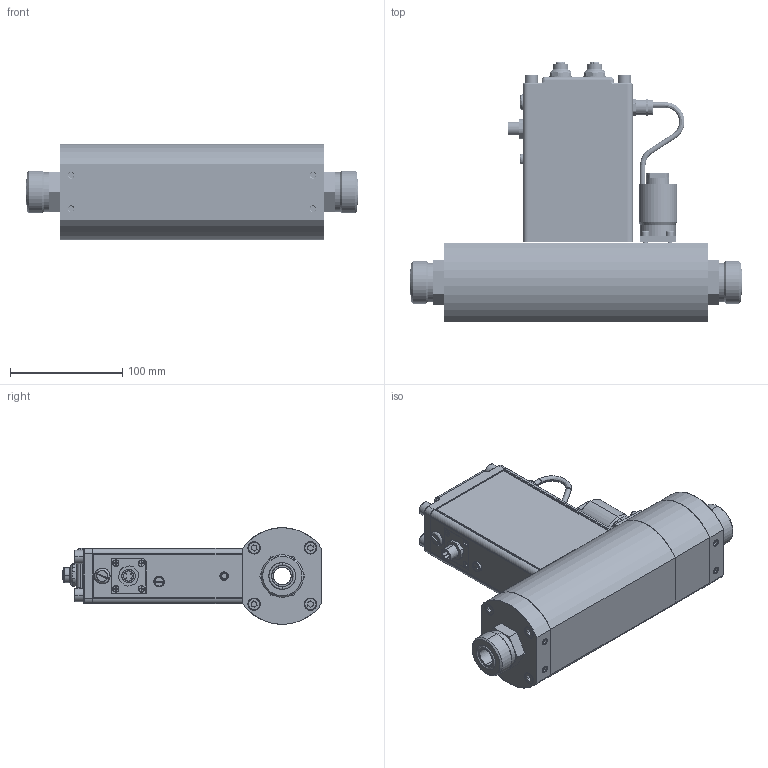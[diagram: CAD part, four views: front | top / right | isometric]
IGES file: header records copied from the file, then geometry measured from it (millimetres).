
Start section: SolidWorks IGES file using analytic representation for surfaces
Global section: file name: G:\Engineering\CAD MODELS FOR SALES\CAD MODEL STORAGE\SLA\SLAMF53\Customer Files\IGES\SLAMF53-7-2L-3-A-REVB.IGS; native system: SolidWorks 2020; preprocessor: SolidWorks 2020; author: CFehr; date: 230706.091242; units: inch
Bounding box: 295.69 x 231.16 x 86.01 mm (x, y, z)
Surface area: 328737.5 mm2 (no closed solid volume)
Topology: 0 solids, 0 shells, 1595 faces, 22270 edges, 22252 vertices
Faces by surface type: revolution 871, bspline 724
